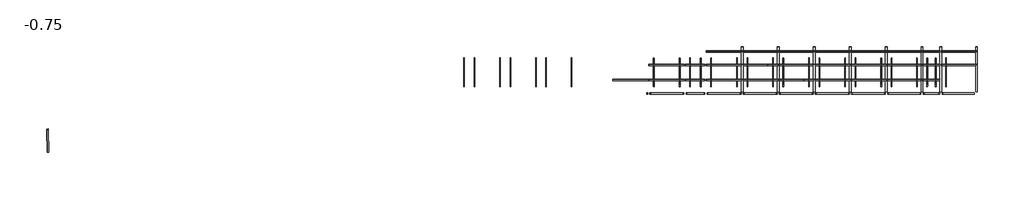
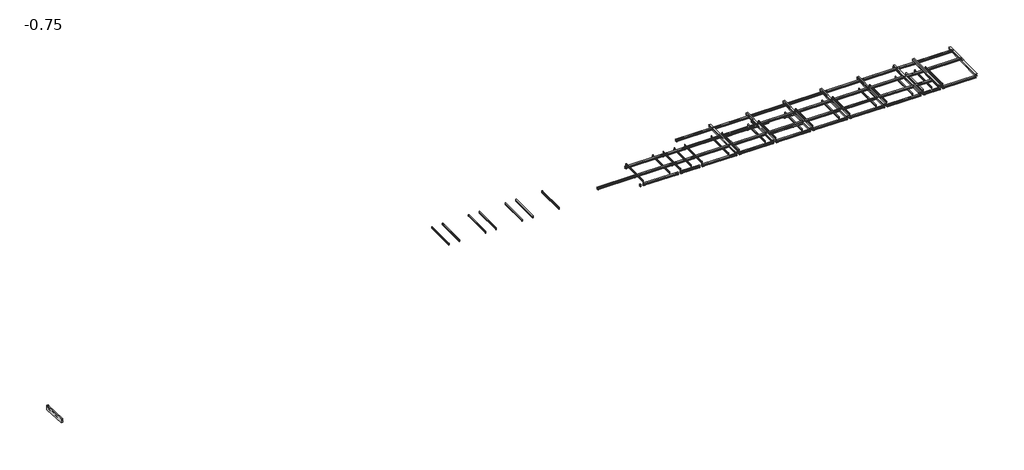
# One storey, incomplete: 69 beams, 37 proxies.
"""IFC4 building model written with IfcOpenShell, lengths in millimetres."""

from ifc_helpers import new_model, si_unit, origin, place, context, project, spatial, faceted_brep, transform, mapped, element, save
from components import hea220_1345f282, hea220_8597afc0, hea220_396262f0, hea220_e51bf654, hea220_084d61d4, hea220_609f1b24, hea220_834636a7, hea220_2531376c, hea220_0f68d9ae, hea220_cdfd850b, hea220_ffc9ca0b, hea220_42e4d512, hea220_70436586, hea220_5286604f, hea220_72724352, hea220_6158f9bf, hea220_02838a77, hea220_6ebdf5e4, hea260_317cb1e5, generic_models_d7890f8d, generic_models_06b08add, generic_models_3cfb63a7, generic_models_b1344a45, generic_models_d5077565, generic_models_0ae8aa6c, generic_models_80d8fc9b, proxy_074950_074950_5c7bac8d

model = new_model("IFC4")

# Units and contexts
model_context = context("Model", 3, world=origin())
ifc_project = project(units=[si_unit("LENGTHUNIT", "METRE", prefix="MILLI")], contexts=[model_context])

# Site, building, storey
site = spatial("IfcSite", under=ifc_project)
building = spatial("IfcBuilding", under=site)
storey = spatial("IfcBuildingStorey", under=building, Name="-0.75", Elevation=-786.4115128)

# Beams
placement = place(None, origin())
element("IfcBeam", 1, ObjectType="Calcestruzzo - Trave rettangolare : 200 x 620mm", at=placement, inside=storey, context=model_context, shape_type="Brep", body=[
    faceted_brep([(-40091.6675652, 19447.5183463, 0.0), (-39891.7648251, 19453.75489, 0.0), (-39891.7648251, 19453.75489, -620.0), (-40091.6675652, 19447.5183463, -620.0), (-39993.6384533, 16305.3471251, 0.0), (-39989.8963337, 16305.4638714, 0.0), (-40083.444489, 19304.0049737, 0.0), (-39888.2851813, 19342.2203035, 0.0), (-39888.2851813, 19342.2203035, -120.0), (-39793.7357131, 16311.5836688, -120.0), (-39793.7357131, 16311.5836688, -170.0), (-39887.2838684, 19310.1247712, -170.0), (-39887.2838684, 19310.1247712, -290.0), (-39841.1257436, 17830.5976331, -290.0), (-39836.760163, 17690.665715, -290.0), (-39793.7357131, 16311.5836688, -290.0), (-39793.7357131, 16311.5836688, -620.0), (-39836.760163, 17690.665715, -620.0), (-39841.1257436, 17830.5976331, -620.0), (-39993.6384533, 16305.3471251, -620.0), (-39989.8963337, 16305.4638714, -290.0), (-39989.8963337, 16305.4638714, -170.0), (-39989.8963337, 16305.4638714, -120.0), (-40083.444489, 19304.0049737, -120.0), (-40083.444489, 19304.0049737, -290.0), (-40083.444489, 19304.0049737, -170.0)], [[[0, 1, 2, 3]], [[1, 0, 4, 5, 6, 7]], [[2, 1, 7, 8, 9, 10, 11, 12, 13, 14, 15, 16, 17, 18]], [[3, 2, 18, 17, 16, 19]], [[0, 3, 19, 4]], [[4, 19, 16, 15, 20, 21, 10, 9, 22, 5]], [[8, 23, 22, 9]], [[23, 6, 5, 22]], [[6, 23, 8, 7]], [[12, 24, 20, 15, 14, 13]], [[21, 25, 11, 10]], [[24, 25, 21, 20]], [[25, 24, 12, 11]]]),
])
hea220_shape = hea220_1345f282(model_context)
element("IfcBeam", 2, ObjectType="HE-A : HEA220", at=placement, inside=storey, context=model_context, shape_type="MappedRepresentation", body=[
    mapped(hea220_shape, transform((43568.8583455, 26064.5267116, -622.4392547), x_axis=(-0.9999741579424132, -6.569127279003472e-05, 0.007188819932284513), y_axis=(-5.214987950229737e-05, -0.9998656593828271, -0.016390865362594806), z_axis=(0.007188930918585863, -0.01639081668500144, 0.9998398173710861))),
])
element("IfcBeam", 3, ObjectType="HE-A : HEA220", at=placement, inside=storey, context=model_context, shape_type="MappedRepresentation", body=[
    mapped(hea220_shape, transform((43568.6704031, 28094.2809266, -589.1599371), x_axis=(-0.999974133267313, 6.10557514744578e-05, 0.007192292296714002), y_axis=(-0.00017849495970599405, -0.9998666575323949, -0.01632897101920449), z_axis=(0.007190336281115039, -0.016329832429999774, 0.9998408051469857))),
])
element("IfcBeam", 4, ObjectType="HE-A : HEA220", at=placement, inside=storey, context=model_context, shape_type="MappedRepresentation", body=[
    mapped(hea220_shape, transform((51308.7653763, 26064.5263039, -680.1124346), x_axis=(-0.9999741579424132, -6.569127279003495e-05, 0.0071888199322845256), y_axis=(-5.2149879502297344e-05, -0.9998656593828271, -0.016390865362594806), z_axis=(0.007188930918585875, -0.01639081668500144, 0.9998398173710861))),
])
element("IfcBeam", 5, ObjectType="HE-A : HEA220", at=placement, inside=storey, context=model_context, shape_type="MappedRepresentation", body=[
    mapped(hea220_shape, transform((51308.5774339, 28094.2805189, -646.833117), x_axis=(-0.999974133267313, 6.10557514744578e-05, 0.007192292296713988), y_axis=(-0.00017849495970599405, -0.9998666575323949, -0.01632897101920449), z_axis=(0.007190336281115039, -0.016329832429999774, 0.9998408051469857))),
])
element("IfcBeam", 6, ObjectType="HE-A : HEA220", at=placement, inside=storey, context=model_context, shape_type="MappedRepresentation", body=[
    mapped(hea220_shape, transform((51308.5773852, 29902.4096235, -617.194963), x_axis=(-0.9999741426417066, 6.468302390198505e-05, 0.007190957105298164), y_axis=(-0.00018253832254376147, -0.9998656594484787, -0.016389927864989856), z_axis=(0.007188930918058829, -0.016390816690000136, 0.9998398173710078))),
])
element("IfcBeam", 7, ObjectType="HE-A : HEA220", at=placement, inside=storey, context=model_context, shape_type="MappedRepresentation", body=[
    mapped(hea220_shape, transform((56198.8546975, 26064.5260462, -716.555201), x_axis=(-0.9999741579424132, -6.569127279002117e-05, 0.007188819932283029), y_axis=(-5.214987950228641e-05, -0.9998656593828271, -0.01639086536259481), z_axis=(0.0071889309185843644, -0.016390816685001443, 0.9998398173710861))),
])
element("IfcBeam", 8, ObjectType="HE-A : HEA220", at=placement, inside=storey, context=model_context, shape_type="MappedRepresentation", body=[
    mapped(hea220_shape, transform((56198.6667551, 28094.2802613, -683.2758834), x_axis=(-0.999974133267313, 6.10557514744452e-05, 0.007192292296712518), y_axis=(-0.00017849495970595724, -0.9998666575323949, -0.016328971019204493), z_axis=(0.007190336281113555, -0.016329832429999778, 0.9998408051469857))),
])
element("IfcBeam", 9, ObjectType="HE-A : HEA220", at=placement, inside=storey, context=model_context, shape_type="MappedRepresentation", body=[
    mapped(hea220_shape, transform((56198.6667064, 29902.4093659, -653.6377294), x_axis=(-0.9999741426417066, 6.468302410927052e-05, 0.007190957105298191), y_axis=(-0.00018253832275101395, -0.9998656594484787, -0.01638992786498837), z_axis=(0.007188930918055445, -0.01639081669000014, 0.9998398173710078))),
])
element("IfcBeam", 10, ObjectType="HE-A : HEA220", at=placement, inside=storey, context=model_context, shape_type="MappedRepresentation", body=[
    mapped(hea220_shape, transform((61038.7574883, 26064.5257874, -753.1707152), x_axis=(-0.9999741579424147, -6.569127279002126e-05, 0.007188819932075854), y_axis=(-5.2149879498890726e-05, -0.9998656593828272, -0.016390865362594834), z_axis=(0.007188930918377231, -0.016390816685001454, 0.9998398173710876))),
])
element("IfcBeam", 11, ObjectType="HE-A : HEA220", at=placement, inside=storey, context=model_context, shape_type="MappedRepresentation", body=[
    mapped(hea220_shape, transform((61038.569546, 28094.2800025, -719.8913976), x_axis=(-0.999974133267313, 6.105575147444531e-05, 0.00719229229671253), y_axis=(-0.0001784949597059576, -0.9998666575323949, -0.0163289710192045), z_axis=(0.007190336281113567, -0.016329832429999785, 0.9998408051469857))),
])
element("IfcBeam", 12, ObjectType="HE-A : HEA220", at=placement, inside=storey, context=model_context, shape_type="MappedRepresentation", body=[
    mapped(hea220_shape, transform((61038.5694972, 29902.4091071, -690.2532435), x_axis=(-0.9999741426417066, 6.468302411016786e-05, 0.007190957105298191), y_axis=(-0.00018253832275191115, -0.9998656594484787, -0.01638992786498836), z_axis=(0.00718893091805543, -0.016390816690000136, 0.9998398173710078))),
])
element("IfcBeam", 13, ObjectType="HE-A : HEA220", at=placement, inside=storey, context=model_context, shape_type="MappedRepresentation", body=[
    mapped(hea220_shape, transform((70788.7574883, 26064.5252713, -826.1707152), x_axis=(-0.9999741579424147, -6.569127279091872e-05, 0.007188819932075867), y_axis=(-5.214987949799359e-05, -0.9998656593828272, -0.016390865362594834), z_axis=(0.007188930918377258, -0.016390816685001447, 0.9998398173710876))),
])
element("IfcBeam", 14, ObjectType="HE-A : HEA220", at=placement, inside=storey, context=model_context, shape_type="MappedRepresentation", body=[
    mapped(hea220_shape, transform((70788.569546, 28094.2794864, -792.8913976), x_axis=(-0.999974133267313, 6.10557514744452e-05, 0.007192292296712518), y_axis=(-0.00017849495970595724, -0.9998666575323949, -0.016328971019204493), z_axis=(0.007190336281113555, -0.016329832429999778, 0.9998408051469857))),
])
element("IfcBeam", 15, ObjectType="HE-A : HEA220", at=placement, inside=storey, context=model_context, shape_type="MappedRepresentation", body=[
    mapped(hea220_shape, transform((70788.5694972, 29902.408591, -763.2532435), x_axis=(-0.9999741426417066, 6.468302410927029e-05, 0.007190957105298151), y_axis=(-0.0001825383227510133, -0.9998656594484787, -0.01638992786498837), z_axis=(0.007188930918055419, -0.01639081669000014, 0.9998398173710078))),
])
element("IfcBeam", 16, ObjectType="HE-A : HEA220", at=placement, inside=storey, context=model_context, shape_type="MappedRepresentation", body=[
    mapped(hea220_shape, transform((75658.7574883, 26064.5250013, -864.3707152), x_axis=(-0.9999741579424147, -6.56912727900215e-05, 0.007188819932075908), y_axis=(-5.2149879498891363e-05, -0.9998656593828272, -0.016390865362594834), z_axis=(0.0071889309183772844, -0.016390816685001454, 0.9998398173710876))),
])
element("IfcBeam", 17, ObjectType="HE-A : HEA220", at=placement, inside=storey, context=model_context, shape_type="MappedRepresentation", body=[
    mapped(hea220_shape, transform((75658.569546, 28094.2792164, -831.0913976), x_axis=(-0.999974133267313, 6.105575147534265e-05, 0.00719229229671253), y_axis=(-0.0001784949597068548, -0.9998666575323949, -0.016328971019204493), z_axis=(0.007190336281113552, -0.016329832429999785, 0.9998408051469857))),
])
element("IfcBeam", 18, ObjectType="HE-A : HEA220", at=placement, inside=storey, context=model_context, shape_type="MappedRepresentation", body=[
    mapped(hea220_shape, transform((75658.5694972, 29902.408321, -801.4532435), x_axis=(-0.9999741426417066, 6.468302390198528e-05, 0.007190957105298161), y_axis=(-0.00018253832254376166, -0.9998656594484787, -0.016389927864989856), z_axis=(0.0071889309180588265, -0.016390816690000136, 0.9998398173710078))),
])
element("IfcBeam", 19, ObjectType="HE-A : HEA220", at=placement, inside=storey, context=model_context, shape_type="MappedRepresentation", body=[
    mapped(hea220_shape, transform((83008.569546, 28094.2788573, -881.8913976), x_axis=(-0.999974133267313, 6.105575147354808e-05, 0.0071922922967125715), y_axis=(-0.00017849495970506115, -0.9998666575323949, -0.0163289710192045), z_axis=(0.007190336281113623, -0.016329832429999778, 0.9998408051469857))),
])
element("IfcBeam", 20, ObjectType="HE-A : HEA220", at=placement, inside=storey, context=model_context, shape_type="MappedRepresentation", body=[
    mapped(hea220_shape, transform((83008.5694972, 29902.4079618, -852.2532435), x_axis=(-0.9999741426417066, 6.468302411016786e-05, 0.007190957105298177), y_axis=(-0.00018253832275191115, -0.9998656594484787, -0.01638992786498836), z_axis=(0.00718893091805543, -0.016390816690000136, 0.9998398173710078))),
])
element("IfcBeam", 21, ObjectType="HE-A : HEA220", at=placement, inside=storey, context=model_context, shape_type="MappedRepresentation", body=[
    mapped(hea220_shape, transform((38728.3461871, 26064.5269667, -586.3527962), x_axis=(-0.9999741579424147, -6.569127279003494e-05, 0.00718881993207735), y_axis=(-5.214987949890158e-05, -0.9998656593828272, -0.016390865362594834), z_axis=(0.007188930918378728, -0.016390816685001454, 0.9998398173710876))),
])
hea220_2_shape = hea220_8597afc0(model_context)
element("IfcBeam", 22, ObjectType="HE-A : HEA220", at=placement, inside=storey, context=model_context, shape_type="MappedRepresentation", body=[
    mapped(hea220_2_shape, transform((40936.5248932, 24216.5547742, -629.5678381), x_axis=(0.9999826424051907, -7.476964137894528e-05, -0.005891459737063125), y_axis=(7.476822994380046e-05, 0.9999999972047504, -4.598219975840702e-07), z_axis=(0.005891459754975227, 1.931999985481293e-08, 0.9999826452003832))),
])
element("IfcBeam", 23, ObjectType="HE-A : HEA220", at=placement, inside=storey, context=model_context, shape_type="MappedRepresentation", body=[
    mapped(hea220_2_shape, transform((45836.4405904, 24216.5545161, -666.0782942), x_axis=(0.9999826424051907, -7.476964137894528e-05, -0.005891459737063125), y_axis=(7.476822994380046e-05, 0.9999999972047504, -4.598219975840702e-07), z_axis=(0.005891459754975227, 1.931999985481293e-08, 0.9999826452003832))),
])
element("IfcBeam", 24, ObjectType="HE-A : HEA220", at=placement, inside=storey, context=model_context, shape_type="MappedRepresentation", body=[
    mapped(hea220_2_shape, transform((48676.431924, 24216.5543665, -687.241018), x_axis=(0.9999826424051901, -7.476964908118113e-05, -0.0058914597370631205), y_axis=(7.476823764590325e-05, 0.9999999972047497, -4.598220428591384e-07), z_axis=(0.00589145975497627, 1.9319999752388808e-08, 0.9999826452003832))),
])
element("IfcBeam", 25, ObjectType="HE-A : HEA220", at=placement, inside=storey, context=model_context, shape_type="MappedRepresentation", body=[
    mapped(hea220_2_shape, transform((53566.5212452, 24216.5541089, -723.6837844), x_axis=(0.9999826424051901, -7.476964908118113e-05, -0.0058914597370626), y_axis=(7.476823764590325e-05, 0.9999999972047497, -4.5982204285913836e-07), z_axis=(0.005891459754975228, 1.9319999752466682e-08, 0.9999826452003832))),
])
element("IfcBeam", 26, ObjectType="HE-A : HEA220", at=placement, inside=storey, context=model_context, shape_type="MappedRepresentation", body=[
    mapped(hea220_2_shape, transform((58406.4240361, 24216.5538501, -760.2992986), x_axis=(0.9999826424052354, -7.476964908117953e-05, -0.005891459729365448), y_axis=(7.476823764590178e-05, 0.9999999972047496, -4.5982204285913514e-07), z_axis=(0.005891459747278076, 1.9320000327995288e-08, 0.9999826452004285))),
])
element("IfcBeam", 27, ObjectType="HE-A : HEA220", at=placement, inside=storey, context=model_context, shape_type="MappedRepresentation", body=[
    mapped(hea220_2_shape, transform((63276.4408953, 24216.5535974, -796.0374127), x_axis=(0.9999826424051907, -7.476964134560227e-05, -0.005891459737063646), y_axis=(7.476822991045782e-05, 0.9999999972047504, -4.598219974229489e-07), z_axis=(0.00589145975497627, 1.9319999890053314e-08, 0.9999826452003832))),
])
element("IfcBeam", 28, ObjectType="HE-A : HEA220", at=placement, inside=storey, context=model_context, shape_type="MappedRepresentation", body=[
    mapped(hea220_2_shape, transform((68156.4240361, 24216.553334, -833.2992986), x_axis=(0.9999826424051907, -7.476964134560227e-05, -0.005891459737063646), y_axis=(7.476822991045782e-05, 0.9999999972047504, -4.598219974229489e-07), z_axis=(0.00589145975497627, 1.9319999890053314e-08, 0.9999826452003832))),
])
element("IfcBeam", 29, ObjectType="HE-A : HEA220", at=placement, inside=storey, context=model_context, shape_type="MappedRepresentation", body=[
    mapped(hea220_2_shape, transform((73026.4240361, 24216.553064, -871.4992986), x_axis=(0.9999826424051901, -7.476964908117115e-05, -0.005891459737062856), y_axis=(7.476823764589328e-05, 0.9999999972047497, -4.598220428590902e-07), z_axis=(0.005891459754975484, 1.9319999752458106e-08, 0.9999826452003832))),
])
element("IfcBeam", 30, ObjectType="HE-A : HEA220", at=placement, inside=storey, context=model_context, shape_type="MappedRepresentation", body=[
    mapped(hea220_2_shape, transform((77826.3259695, 24216.552831, -904.4561201), x_axis=(0.9999826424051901, -7.476964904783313e-05, -0.005891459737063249), y_axis=(7.476823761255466e-05, 0.9999999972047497, -4.5982204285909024e-07), z_axis=(0.005891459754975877, 1.9319999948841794e-08, 0.9999826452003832))),
])
element("IfcBeam", 31, ObjectType="HE-A : HEA220", at=placement, inside=storey, context=model_context, shape_type="MappedRepresentation", body=[
    mapped(hea220_2_shape, transform((80376.4240361, 24216.5527048, -922.2992986), x_axis=(0.9999826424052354, -7.476964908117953e-05, -0.005891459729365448), y_axis=(7.476823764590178e-05, 0.9999999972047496, -4.598220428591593e-07), z_axis=(0.005891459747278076, 1.932000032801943e-08, 0.9999826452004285))),
])
hea220_3_shape = hea220_396262f0(model_context)
element("IfcBeam", 32, ObjectType="HE-A : HEA220", at=placement, inside=storey, context=model_context, shape_type="MappedRepresentation", body=[
    mapped(hea220_3_shape, transform((41351.4606703, 24216.9047406, -633.0964964), x_axis=(0.9999815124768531, -7.694383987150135e-05, -0.006080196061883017), y_axis=(7.694238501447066e-05, 0.9999999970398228, -4.731925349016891e-07), z_axis=(0.006080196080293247, 5.359000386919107e-09, 0.9999815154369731))),
])
element("IfcBeam", 33, ObjectType="HE-A : HEA220", at=placement, inside=storey, context=model_context, shape_type="MappedRepresentation", body=[
    mapped(hea220_3_shape, transform((46251.3763676, 24216.9044824, -669.6069525), x_axis=(0.9999815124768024, -7.69438398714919e-05, -0.006080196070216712), y_axis=(7.69423850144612e-05, 0.999999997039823, -4.731925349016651e-07), z_axis=(0.006080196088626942, 5.3589997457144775e-09, 0.9999815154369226))),
])
element("IfcBeam", 34, ObjectType="HE-A : HEA220", at=placement, inside=storey, context=model_context, shape_type="MappedRepresentation", body=[
    mapped(hea220_3_shape, transform((49091.3677012, 24216.9043328, -690.7696763), x_axis=(0.9999815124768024, -7.694383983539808e-05, -0.006080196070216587), y_axis=(7.69423849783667e-05, 0.999999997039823, -4.7319253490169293e-07), z_axis=(0.006080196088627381, 5.358999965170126e-09, 0.9999815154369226))),
])
element("IfcBeam", 35, ObjectType="HE-A : HEA220", at=placement, inside=storey, context=model_context, shape_type="MappedRepresentation", body=[
    mapped(hea220_3_shape, transform((53981.4570224, 24216.9040752, -727.2124427), x_axis=(0.9999815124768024, -7.694383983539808e-05, -0.006080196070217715), y_axis=(7.69423849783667e-05, 0.999999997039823, -4.7319253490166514e-07), z_axis=(0.0060801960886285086, 5.358999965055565e-09, 0.9999815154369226))),
])
element("IfcBeam", 36, ObjectType="HE-A : HEA220", at=placement, inside=storey, context=model_context, shape_type="MappedRepresentation", body=[
    mapped(hea220_3_shape, transform((58821.3598132, 24216.9038164, -763.8279569), x_axis=(0.9999815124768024, -7.694383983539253e-05, -0.006080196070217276), y_axis=(7.694238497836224e-05, 0.999999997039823, -4.731925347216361e-07), z_axis=(0.00608019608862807, 5.358999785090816e-09, 0.9999815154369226))),
])
element("IfcBeam", 37, ObjectType="HE-A : HEA220", at=placement, inside=storey, context=model_context, shape_type="MappedRepresentation", body=[
    mapped(hea220_3_shape, transform((63691.3766724, 24216.9035637, -799.566071), x_axis=(0.9999815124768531, -7.694383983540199e-05, -0.0060801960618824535), y_axis=(7.694238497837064e-05, 0.9999999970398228, -4.7319253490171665e-07), z_axis=(0.006080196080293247, 5.359000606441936e-09, 0.9999815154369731))),
])
element("IfcBeam", 38, ObjectType="HE-A : HEA220", at=placement, inside=storey, context=model_context, shape_type="MappedRepresentation", body=[
    mapped(hea220_3_shape, transform((68571.3598132, 24216.9033003, -836.8279569), x_axis=(0.9999815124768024, -7.69438398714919e-05, -0.006080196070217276), y_axis=(7.69423850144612e-05, 0.999999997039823, -4.731925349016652e-07), z_axis=(0.00608019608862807, 5.358999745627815e-09, 0.9999815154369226))),
])
element("IfcBeam", 39, ObjectType="HE-A : HEA220", at=placement, inside=storey, context=model_context, shape_type="MappedRepresentation", body=[
    mapped(hea220_3_shape, transform((73441.3598132, 24216.9030303, -875.0279569), x_axis=(0.9999815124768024, -7.694383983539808e-05, -0.006080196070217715), y_axis=(7.69423849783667e-05, 0.999999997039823, -4.7319253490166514e-07), z_axis=(0.0060801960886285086, 5.358999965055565e-09, 0.9999815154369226))),
])
element("IfcBeam", 40, ObjectType="HE-A : HEA220", at=placement, inside=storey, context=model_context, shape_type="MappedRepresentation", body=[
    mapped(hea220_3_shape, transform((78241.2617467, 24216.9027973, -907.9847783), x_axis=(0.9999815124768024, -7.694383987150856e-05, -0.0060801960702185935), y_axis=(7.694238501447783e-05, 0.9999999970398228, -4.7319253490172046e-07), z_axis=(0.0060801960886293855, 5.3589997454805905e-09, 0.9999815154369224))),
])
element("IfcBeam", 41, ObjectType="HE-A : HEA220", at=placement, inside=storey, context=model_context, shape_type="MappedRepresentation", body=[
    mapped(hea220_3_shape, transform((80791.3598132, 24216.9026712, -925.8279569), x_axis=(0.9999815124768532, -7.694383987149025e-05, -0.006080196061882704), y_axis=(7.694238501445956e-05, 0.9999999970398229, -4.731925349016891e-07), z_axis=(0.006080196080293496, 5.3590003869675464e-09, 0.9999815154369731))),
])
hea220_4_shape = hea220_e51bf654(model_context)
element("IfcBeam", 42, ObjectType="HE-A : HEA220", at=placement, inside=storey, context=model_context, shape_type="MappedRepresentation", body=[
    mapped(hea220_4_shape, transform((43586.676258, 24216.7235718, -649.5824075), x_axis=(0.9999728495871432, -7.691378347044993e-05, -0.0073684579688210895), y_axis=(7.691164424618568e-05, 0.9999999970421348, -5.736857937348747e-07), z_axis=(0.007368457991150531, 6.9499999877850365e-09, 0.9999728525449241))),
])
hea220_5_shape = hea220_084d61d4(model_context)
element("IfcBeam", 43, ObjectType="HE-A : HEA220", at=placement, inside=storey, context=model_context, shape_type="MappedRepresentation", body=[
    mapped(hea220_5_shape, transform((70796.7896541, 24216.7228843, -853.2417601), x_axis=(0.9999728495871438, -7.691378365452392e-05, -0.007368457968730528), y_axis=(7.691164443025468e-05, 0.9999999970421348, -5.736857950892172e-07), z_axis=(0.00736845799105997, 6.949999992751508e-09, 0.9999728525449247))),
])
element("IfcBeam", 44, ObjectType="HE-A : HEA220", at=placement, inside=storey, context=model_context, shape_type="MappedRepresentation", body=[
    mapped(hea220_5_shape, transform((61046.7896541, 24216.7234003, -780.2417601), x_axis=(0.9999728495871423, -7.691378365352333e-05, -0.007368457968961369), y_axis=(7.691164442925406e-05, 0.999999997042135, -5.736857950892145e-07), z_axis=(0.00736845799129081, 6.949999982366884e-09, 0.9999728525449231))),
])
hea220_6_shape = hea220_609f1b24(model_context)
element("IfcBeam", 45, ObjectType="HE-A : HEA220", at=placement, inside=storey, context=model_context, shape_type="MappedRepresentation", body=[
    mapped(hea220_6_shape, transform((82981.7375241, 24216.7249512, -941.983473), x_axis=(0.9999728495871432, -7.691378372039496e-05, -0.007368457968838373), y_axis=(7.691164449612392e-05, 0.9999999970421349, -5.736857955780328e-07), z_axis=(0.007368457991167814, 6.949999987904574e-09, 0.999972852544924))),
])
element("IfcBeam", 46, ObjectType="HE-A : HEA220", at=placement, inside=storey, context=model_context, shape_type="MappedRepresentation", body=[
    mapped(hea220_6_shape, transform((75631.7375241, 24216.7253103, -891.183473), x_axis=(0.9999728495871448, -7.691378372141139e-05, -0.007368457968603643), y_axis=(7.691164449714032e-05, 0.9999999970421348, -5.736857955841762e-07), z_axis=(0.007368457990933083, 6.950000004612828e-09, 0.9999728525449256))),
])
hea220_7_shape = hea220_834636a7(model_context)
element("IfcBeam", 47, ObjectType="HE-A : HEA220", at=placement, inside=storey, context=model_context, shape_type="MappedRepresentation", body=[
    mapped(hea220_7_shape, transform((47402.4693417, 28093.9082372, -618.0075744), x_axis=(-0.9999741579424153, -6.569127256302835e-05, 0.007188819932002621), y_axis=(-5.214987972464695e-05, -0.9998656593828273, -0.016390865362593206), z_axis=(0.007188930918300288, -0.016390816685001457, 0.9998398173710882))),
])
element("IfcBeam", 48, ObjectType="HE-A : HEA220", at=placement, inside=storey, context=model_context, shape_type="MappedRepresentation", body=[
    mapped(hea220_7_shape, transform((47402.4693417, 26064.4564047, -651.2840402), x_axis=(-0.9999741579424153, -6.569127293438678e-05, 0.007188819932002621), y_axis=(-5.214987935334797e-05, -0.9998656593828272, -0.016390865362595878), z_axis=(0.007188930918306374, -0.016390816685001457, 0.9998398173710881))),
])
hea220_8_shape = hea220_2531376c(model_context)
element("IfcBeam", 49, ObjectType="HE-A : HEA220", at=placement, inside=storey, context=model_context, shape_type="MappedRepresentation", body=[
    mapped(hea220_8_shape, transform((47402.2246654, 28093.9082212, -618.0058154), x_axis=(-0.9999741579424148, -6.569127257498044e-05, 0.00718881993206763), y_axis=(-5.2149879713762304e-05, -0.9998656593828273, -0.016390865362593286), z_axis=(0.007188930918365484, -0.016390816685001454, 0.9998398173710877))),
])
element("IfcBeam", 50, ObjectType="HE-A : HEA220", at=placement, inside=storey, context=model_context, shape_type="MappedRepresentation", body=[
    mapped(hea220_8_shape, transform((47402.2246654, 26064.4563887, -651.2822812), x_axis=(-0.9999741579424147, -6.569127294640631e-05, 0.007188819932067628), y_axis=(-5.214987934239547e-05, -0.9998656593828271, -0.016390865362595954), z_axis=(0.007188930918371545, -0.01639081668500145, 0.9998398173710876))),
])
hea220_9_shape = hea220_0f68d9ae(model_context)
element("IfcBeam", 51, ObjectType="HE-A : HEA220", at=placement, inside=storey, context=model_context, shape_type="MappedRepresentation", body=[
    mapped(hea220_9_shape, transform((65947.1867963, 26064.5255355, -788.9089137), x_axis=(-0.9999749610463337, -6.466247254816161e-05, 0.007076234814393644), y_axis=(-5.133315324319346e-05, -0.9998656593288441, -0.016390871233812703), z_axis=(0.0070763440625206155, -0.01639082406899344, 0.9998406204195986))),
])
hea220_10_shape = hea220_cdfd850b(model_context)
element("IfcBeam", 52, ObjectType="HE-A : HEA220", at=placement, inside=storey, context=model_context, shape_type="MappedRepresentation", body=[
    mapped(hea220_10_shape, transform((65918.5895204, 28094.2797496, -755.6295341), x_axis=(-0.9999743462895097, 6.0803826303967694e-05, 0.007162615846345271), y_axis=(-0.0001777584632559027, -0.9998666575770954, -0.016328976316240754), z_axis=(0.007160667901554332, -0.016329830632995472, 0.9998410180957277))),
])
element("IfcBeam", 53, ObjectType="HE-A : HEA220", at=placement, inside=storey, context=model_context, shape_type="MappedRepresentation", body=[
    mapped(hea220_10_shape, transform((65918.589471, 29902.4088542, -725.99138), x_axis=(-0.9999743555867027, 6.441613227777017e-05, 0.007161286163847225), y_axis=(-0.00018178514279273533, -0.999865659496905, -0.01638993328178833), z_axis=(0.00715926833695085, -0.016390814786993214, 0.9998400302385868))),
])
hea220_11_shape = hea220_ffc9ca0b(model_context)
element("IfcBeam", 54, ObjectType="HE-A : HEA220", at=placement, inside=storey, context=model_context, shape_type="MappedRepresentation", body=[
    mapped(hea220_11_shape, transform((47461.5161106, 24216.8021583, -678.5394302), x_axis=(0.9999728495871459, -7.69137836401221e-05, -0.007368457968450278), y_axis=(7.691164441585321e-05, 0.9999999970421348, -5.736857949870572e-07), z_axis=(0.007368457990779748, 6.950000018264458e-09, 0.9999728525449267))),
])
hea220_12_shape = hea220_42e4d512(model_context)
element("IfcBeam", 55, ObjectType="HE-A : HEA220", at=placement, inside=storey, context=model_context, shape_type="MappedRepresentation", body=[
    mapped(hea220_12_shape, transform((51326.8352394, 24216.7231448, -707.2574439), x_axis=(0.9999728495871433, -7.691378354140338e-05, -0.00736845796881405), y_axis=(7.69116443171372e-05, 0.9999999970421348, -5.736857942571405e-07), z_axis=(0.00736845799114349, 6.949999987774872e-09, 0.9999728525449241))),
])
hea220_13_shape = hea220_70436586(model_context)
element("IfcBeam", 56, ObjectType="HE-A : HEA220", at=placement, inside=storey, context=model_context, shape_type="MappedRepresentation", body=[
    mapped(hea220_13_shape, transform((56191.5163887, 24216.7248414, -743.5129862), x_axis=(0.999972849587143, -7.691378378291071e-05, -0.007368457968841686), y_axis=(7.691164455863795e-05, 0.9999999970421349, -5.736857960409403e-07), z_axis=(0.007368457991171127, 6.949999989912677e-09, 0.999972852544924))),
])
hea220_14_shape = hea220_5286604f(model_context)
element("IfcBeam", 57, ObjectType="HE-A : HEA220", at=placement, inside=storey, context=model_context, shape_type="MappedRepresentation", body=[
    mapped(hea220_14_shape, transform((65921.7975889, 24216.7227638, -816.0166518), x_axis=(0.9999728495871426, -7.691378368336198e-05, -0.007368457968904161), y_axis=(7.691164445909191e-05, 0.9999999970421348, -5.736857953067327e-07), z_axis=(0.007368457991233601, 6.949999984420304e-09, 0.9999728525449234))),
])
hea220_15_shape = hea220_72724352(model_context)
element("IfcBeam", 58, ObjectType="HE-A : HEA220", at=placement, inside=storey, context=model_context, shape_type="MappedRepresentation", body=[
    mapped(hea220_15_shape, transform((79306.4509405, 24216.8116222, -915.8491651), x_axis=(0.9999728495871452, -7.691378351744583e-05, -0.007368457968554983), y_axis=(7.691164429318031e-05, 0.9999999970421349, -5.736857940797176e-07), z_axis=(0.007368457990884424, 6.9500000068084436e-09, 0.9999728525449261))),
])
hea220_16_shape = hea220_6158f9bf(model_context)
element("IfcBeam", 59, ObjectType="HE-A : HEA220", at=placement, inside=storey, context=model_context, shape_type="MappedRepresentation", body=[
    mapped(hea220_16_shape, transform((79246.9340277, 26064.4451665, -888.6164359), x_axis=(-0.9999741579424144, -6.569127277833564e-05, 0.0071888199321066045), y_axis=(-5.21498795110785e-05, -0.9998656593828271, -0.016390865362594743), z_axis=(0.007188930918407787, -0.016390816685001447, 0.9998398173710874))),
])
hea220_17_shape = hea220_02838a77(model_context)
element("IfcBeam", 60, ObjectType="HE-A : HEA220", at=placement, inside=storey, context=model_context, shape_type="MappedRepresentation", body=[
    mapped(hea220_17_shape, transform((79246.986977, 28093.8970024, -855.3403507), x_axis=(-0.9999741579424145, -6.569127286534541e-05, 0.00718881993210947), y_axis=(-5.2149879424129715e-05, -0.9998656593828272, -0.016390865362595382), z_axis=(0.007188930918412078, -0.01639081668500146, 0.9998398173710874))),
])
hea220_18_shape = hea220_6ebdf5e4(model_context)
element("IfcBeam", 61, ObjectType="HE-A : HEA220", at=placement, inside=storey, context=model_context, shape_type="MappedRepresentation", body=[
    mapped(hea220_18_shape, transform((79247.0341058, 29902.0241553, -825.7060245), x_axis=(-0.999974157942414, -6.569127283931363e-05, 0.007188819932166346), y_axis=(-5.214987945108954e-05, -0.9998656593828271, -0.01639086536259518), z_axis=(0.00718893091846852, -0.01639081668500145, 0.999839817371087))),
])
hea260_shape = hea260_317cb1e5(model_context)
element("IfcBeam", 62, ObjectType="HE-A : HEA260", at=placement, inside=storey, context=model_context, shape_type="MappedRepresentation", body=[
    mapped(hea260_shape, transform((53772.353732, 27524.0429797, -693.8991531), x_axis=(0.0, -0.9998656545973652, -0.01639124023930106), y_axis=(1.0, 0.0, 0.0), z_axis=(0.0, -0.01639124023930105, 0.9998656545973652))),
])
element("IfcBeam", 63, ObjectType="HE-A : HEA260", at=placement, inside=storey, context=model_context, shape_type="MappedRepresentation", body=[
    mapped(hea260_shape, transform((58612.2565229, 27524.0427209, -730.5146673), x_axis=(0.0, -0.9998656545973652, -0.01639124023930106), y_axis=(1.0, 0.0, 0.0), z_axis=(0.0, -0.01639124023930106, 0.9998656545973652))),
])
element("IfcBeam", 64, ObjectType="HE-A : HEA260", at=placement, inside=storey, context=model_context, shape_type="MappedRepresentation", body=[
    mapped(hea260_shape, transform((63482.2733821, 27524.0424682, -766.2527814), x_axis=(0.0, -0.9998656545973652, -0.016391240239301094), y_axis=(1.0, 0.0, 0.0), z_axis=(0.0, -0.016391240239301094, 0.9998656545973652))),
])
element("IfcBeam", 65, ObjectType="HE-A : HEA260", at=placement, inside=storey, context=model_context, shape_type="MappedRepresentation", body=[
    mapped(hea260_shape, transform((68362.2565229, 27524.0422048, -803.5146673), x_axis=(0.0, -0.9998656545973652, -0.01639124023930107), y_axis=(1.0, 0.0, 0.0), z_axis=(0.0, -0.01639124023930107, 0.9998656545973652))),
])
element("IfcBeam", 66, ObjectType="HE-A : HEA260", at=placement, inside=storey, context=model_context, shape_type="MappedRepresentation", body=[
    mapped(hea260_shape, transform((73232.2565229, 27524.0419348, -841.7146673), x_axis=(0.0, -0.9998656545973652, -0.01639124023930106), y_axis=(1.0, 0.0, 0.0), z_axis=(0.0, -0.01639124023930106, 0.9998656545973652))),
])
element("IfcBeam", 67, ObjectType="HE-A : HEA260", at=placement, inside=storey, context=model_context, shape_type="MappedRepresentation", body=[
    mapped(hea260_shape, transform((78032.1584563, 27524.0417018, -874.6714888), x_axis=(0.0, -0.9998656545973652, -0.01639124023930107), y_axis=(1.0, 0.0, 0.0), z_axis=(0.0, -0.01639124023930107, 0.9998656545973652))),
])
element("IfcBeam", 68, ObjectType="HE-A : HEA260", at=placement, inside=storey, context=model_context, shape_type="MappedRepresentation", body=[
    mapped(hea260_shape, transform((80582.2565229, 27524.0415756, -892.5146673), x_axis=(0.0, -0.9998656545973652, -0.01639124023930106), y_axis=(1.0, 0.0, 0.0), z_axis=(0.0, -0.01639124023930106, 0.9998656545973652))),
])
element("IfcBeam", 69, ObjectType="HE-A : HEA260", at=placement, inside=storey, context=model_context, shape_type="MappedRepresentation", body=[
    mapped(hea260_shape, transform((85382.2565229, 27524.0413211, -928.5146673), x_axis=(0.0, -0.9998656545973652, -0.016391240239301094), y_axis=(1.0, 0.0, 0.0), z_axis=(0.0, -0.016391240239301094, 0.9998656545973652))),
])

# Proxies
generic_models_shape = generic_models_d7890f8d(model_context)
element("IfcBuildingElementProxy", 70, Name="sikawrapElvis : sikawrapElvis", ObjectType="sikawrapElvis : sikawrapElvis", at=placement, inside=storey, context=model_context, shape_type="MappedRepresentation", body=[
    mapped(generic_models_shape, transform((58612.3573777, 29373.3056975, -1124.5205223), x_axis=(1.0, 0.0, 0.0), y_axis=(0.0, 1.0, 0.0), z_axis=(0.0, 0.0, 1.0))),
])
generic_models_2_shape = generic_models_06b08add(model_context)
element("IfcBuildingElementProxy", 71, Name="sikawrapElvis : sikawrapElvis2", ObjectType="sikawrapElvis : sikawrapElvis2", at=placement, inside=storey, context=model_context, shape_type="MappedRepresentation", body=[
    mapped(generic_models_2_shape, transform((58612.3573777, 29373.3056975, -1125.3205223), x_axis=(1.0, 0.0, 0.0), y_axis=(0.0, 1.0, 0.0), z_axis=(0.0, 0.0, 1.0))),
])
generic_models_3_shape = generic_models_3cfb63a7(model_context)
element("IfcBuildingElementProxy", 72, Name="Sika® CarboDur® M914 : Sika® CarboDur® S1012", ObjectType="Sika® CarboDur® M914 : Sika® CarboDur® S1012", at=placement, inside=storey, context=model_context, shape_type="MappedRepresentation", body=[
    mapped(generic_models_3_shape, transform((61028.7325973, 25988.3920265, -920.9316727), x_axis=(0.9999772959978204, 0.0, -0.0067385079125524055), y_axis=(0.0067385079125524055, 0.0, 0.9999772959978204), z_axis=(0.0, -1.0, 0.0))),
])
generic_models_4_shape = generic_models_b1344a45(model_context)
element("IfcBuildingElementProxy", 73, Name="Sika® CarboDur® M914 : Sika® CarboDur® S1012", ObjectType="Sika® CarboDur® M914 : Sika® CarboDur® S1012", at=placement, inside=storey, context=model_context, shape_type="MappedRepresentation", body=[
    mapped(generic_models_4_shape, transform((61028.7325973, 26138.3920265, -920.9316727), x_axis=(0.9999772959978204, 0.0, -0.006738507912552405), y_axis=(-0.006738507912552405, 0.0, -0.9999772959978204), z_axis=(0.0, 1.0, 0.0))),
])
generic_models_5_shape = generic_models_d5077565(model_context)
element("IfcBuildingElementProxy", 74, Name="Sika® CarboDur® M914 : Sika® CarboDur® S1012", ObjectType="Sika® CarboDur® M914 : Sika® CarboDur® S1012", at=placement, inside=storey, context=model_context, shape_type="MappedRepresentation", body=[
    mapped(generic_models_5_shape, transform((56345.8352394, 28003.3920265, -886.5494463), x_axis=(0.9999756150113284, 0.0, -0.006983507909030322), y_axis=(0.006983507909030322, 0.0, 0.9999756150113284), z_axis=(0.0, -1.0, 0.0))),
])
generic_models_6_shape = generic_models_0ae8aa6c(model_context)
element("IfcBuildingElementProxy", 75, Name="Sika® CarboDur® M914 : Sika® CarboDur® S1012", ObjectType="Sika® CarboDur® M914 : Sika® CarboDur® S1012", at=placement, inside=storey, context=model_context, shape_type="MappedRepresentation", body=[
    mapped(generic_models_6_shape, transform((56185.541638, 28168.3920265, -885.9514247), x_axis=(0.9999772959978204, 0.0, -0.006738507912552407), y_axis=(-0.006738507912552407, 0.0, -0.9999772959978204), z_axis=(0.0, 1.0, 0.0))),
])
generic_models_7_shape = generic_models_80d8fc9b(model_context)
element("IfcBuildingElementProxy", 76, Name="sikawrapElvis_inclinata : sikawrapElvis_inclinata", ObjectType="sikawrapElvis_inclinata : sikawrapElvis_inclinata", at=placement, inside=storey, context=model_context, shape_type="MappedRepresentation", body=[
    mapped(generic_models_7_shape, transform((62042.372441, 26063.4418563, -1008.4427024), x_axis=(0.0, -1.0, 0.0), y_axis=(0.9999772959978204, 0.0, -0.0067385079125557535), z_axis=(0.0067385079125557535, 0.0, 0.9999772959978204))),
])
element("IfcBuildingElementProxy", 77, Name="sikawrapElvis_inclinata : sikawrapElvis_inclinata", ObjectType="sikawrapElvis_inclinata : sikawrapElvis_inclinata", at=placement, inside=storey, context=model_context, shape_type="MappedRepresentation", body=[
    mapped(generic_models_7_shape, transform((57196.8300967, 28093.3920265, -974.9205747), x_axis=(0.0, -1.0, 0.0), y_axis=(0.9999772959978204, 0.0, -0.0067385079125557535), z_axis=(0.0067385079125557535, 0.0, 0.9999772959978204))),
])
element("IfcBuildingElementProxy", 78, Name="sikawrapElvis_inclinata : sikawrapElvis_inclinata", ObjectType="sikawrapElvis_inclinata : sikawrapElvis_inclinata", at=placement, inside=storey, context=model_context, shape_type="MappedRepresentation", body=[
    mapped(generic_models_7_shape, transform((58726.8164614, 28093.4418563, -986.1002949), x_axis=(0.0, -1.0, 0.0), y_axis=(0.9999772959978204, 0.0, -0.0067385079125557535), z_axis=(0.0067385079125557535, 0.0, 0.9999772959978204))),
])
element("IfcBuildingElementProxy", 79, Name="sikawrapElvis_inclinata : sikawrapElvis_inclinata", ObjectType="sikawrapElvis_inclinata : sikawrapElvis_inclinata", at=placement, inside=storey, context=model_context, shape_type="MappedRepresentation", body=[
    mapped(generic_models_7_shape, transform((53872.3429093, 28093.3920265, -952.5179828), x_axis=(0.0, -1.0, 0.0), y_axis=(0.9999772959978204, 0.0, -0.0067385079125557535), z_axis=(0.0067385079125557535, 0.0, 0.9999772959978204))),
])
element("IfcBuildingElementProxy", 80, Name="sikawrapElvis_inclinata : sikawrapElvis_inclinata", ObjectType="sikawrapElvis_inclinata : sikawrapElvis_inclinata", at=placement, inside=storey, context=model_context, shape_type="MappedRepresentation", body=[
    mapped(generic_models_7_shape, transform((62080.1631853, 28093.4418563, -1008.6973614), x_axis=(0.0, -1.0, 0.0), y_axis=(0.9999772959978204, 0.0, -0.0067385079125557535), z_axis=(0.0067385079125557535, 0.0, 0.9999772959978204))),
])
proxy_074950_074950_shape = proxy_074950_074950_5c7bac8d(model_context)
element("IfcBuildingElementProxy", 81, Name="074950 : 074950", ObjectType="074950 : 074950", at=placement, inside=storey, context=model_context, shape_type="MappedRepresentation", body=[
    mapped(proxy_074950_074950_shape, transform((21083.3673607, 29054.1202244, -700.198295), x_axis=(0.0, -1.0, 0.0), y_axis=(-0.999973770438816, 0.0, 0.007242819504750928), z_axis=(-0.007242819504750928, 0.0, -0.999973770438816))),
])
element("IfcBuildingElementProxy", 82, Name="074950 : 074950", ObjectType="074950 : 074950", at=placement, inside=storey, context=model_context, shape_type="MappedRepresentation", body=[
    mapped(proxy_074950_074950_shape, transform((22483.2939189, 29054.1202244, -710.3379764), x_axis=(0.0, -1.0, 0.0), y_axis=(-0.999973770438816, 0.0, 0.007242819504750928), z_axis=(-0.007242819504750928, 0.0, -0.999973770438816))),
])
element("IfcBuildingElementProxy", 83, Name="074950 : 074950", ObjectType="074950 : 074950", at=placement, inside=storey, context=model_context, shape_type="MappedRepresentation", body=[
    mapped(proxy_074950_074950_shape, transform((25923.2939189, 29054.1202244, -735.253929), x_axis=(0.0, -1.0, 0.0), y_axis=(-0.999973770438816, 0.0, 0.007242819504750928), z_axis=(-0.007242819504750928, 0.0, -0.999973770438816))),
])
element("IfcBuildingElementProxy", 84, Name="074950 : 074950", ObjectType="074950 : 074950", at=placement, inside=storey, context=model_context, shape_type="MappedRepresentation", body=[
    mapped(proxy_074950_074950_shape, transform((27323.2939189, 29054.1202244, -745.3941423), x_axis=(0.0, -1.0, 0.0), y_axis=(-0.999973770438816, 0.0, 0.007242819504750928), z_axis=(-0.007242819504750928, 0.0, -0.999973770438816))),
])
element("IfcBuildingElementProxy", 85, Name="074950 : 074950", ObjectType="074950 : 074950", at=placement, inside=storey, context=model_context, shape_type="MappedRepresentation", body=[
    mapped(proxy_074950_074950_shape, transform((30763.2939189, 29054.1202244, -770.3100949), x_axis=(0.0, -1.0, 0.0), y_axis=(-0.999973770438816, 0.0, 0.007242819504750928), z_axis=(-0.007242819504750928, 0.0, -0.999973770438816))),
])
element("IfcBuildingElementProxy", 86, Name="074950 : 074950", ObjectType="074950 : 074950", at=placement, inside=storey, context=model_context, shape_type="MappedRepresentation", body=[
    mapped(proxy_074950_074950_shape, transform((41843.2939189, 29054.1202244, -850.56264), x_axis=(0.0, -1.0, 0.0), y_axis=(-0.999973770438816, 0.0, 0.007242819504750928), z_axis=(-0.007242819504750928, 0.0, -0.999973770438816))),
])
element("IfcBuildingElementProxy", 87, Name="074950 : 074950", ObjectType="074950 : 074950", at=placement, inside=storey, context=model_context, shape_type="MappedRepresentation", body=[
    mapped(proxy_074950_074950_shape, transform((45343.2939189, 29054.1202244, -875.9131732), x_axis=(0.0, -1.0, 0.0), y_axis=(-0.999973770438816, 0.0, 0.007242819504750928), z_axis=(-0.007242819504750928, 0.0, -0.999973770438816))),
])
element("IfcBuildingElementProxy", 88, Name="074950 : 074950", ObjectType="074950 : 074950", at=placement, inside=storey, context=model_context, shape_type="MappedRepresentation", body=[
    mapped(proxy_074950_074950_shape, transform((46743.2939189, 29054.1202244, -886.0533865), x_axis=(0.0, -1.0, 0.0), y_axis=(-0.999973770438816, 0.0, 0.007242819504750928), z_axis=(-0.007242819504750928, 0.0, -0.999973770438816))),
])
element("IfcBuildingElementProxy", 89, Name="074950 : 074950", ObjectType="074950 : 074950", at=placement, inside=storey, context=model_context, shape_type="MappedRepresentation", body=[
    mapped(proxy_074950_074950_shape, transform((48183.2939189, 29054.1202244, -896.4833202), x_axis=(0.0, -1.0, 0.0), y_axis=(-0.999973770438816, 0.0, 0.007242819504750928), z_axis=(-0.007242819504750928, 0.0, -0.999973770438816))),
])
element("IfcBuildingElementProxy", 90, Name="074950 : 074950", ObjectType="074950 : 074950", at=placement, inside=storey, context=model_context, shape_type="MappedRepresentation", body=[
    mapped(proxy_074950_074950_shape, transform((49583.2939189, 29054.1202244, -906.6235334), x_axis=(0.0, -1.0, 0.0), y_axis=(-0.999973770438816, 0.0, 0.007242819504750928), z_axis=(-0.007242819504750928, 0.0, -0.999973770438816))),
])
element("IfcBuildingElementProxy", 91, Name="074950 : 074950", ObjectType="074950 : 074950", at=placement, inside=storey, context=model_context, shape_type="MappedRepresentation", body=[
    mapped(proxy_074950_074950_shape, transform((53073.2939189, 29054.1202244, -931.9016366), x_axis=(0.0, -1.0, 0.0), y_axis=(-0.999973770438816, 0.0, 0.007242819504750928), z_axis=(-0.007242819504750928, 0.0, -0.999973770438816))),
])
element("IfcBuildingElementProxy", 92, Name="074950 : 074950", ObjectType="074950 : 074950", at=placement, inside=storey, context=model_context, shape_type="MappedRepresentation", body=[
    mapped(proxy_074950_074950_shape, transform((54473.2939189, 29054.1202244, -942.0418498), x_axis=(0.0, -1.0, 0.0), y_axis=(-0.999973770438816, 0.0, 0.007242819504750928), z_axis=(-0.007242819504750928, 0.0, -0.999973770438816))),
])
element("IfcBuildingElementProxy", 93, Name="074950 : 074950", ObjectType="074950 : 074950", at=placement, inside=storey, context=model_context, shape_type="MappedRepresentation", body=[
    mapped(proxy_074950_074950_shape, transform((57913.2939189, 29054.1202244, -966.9578025), x_axis=(0.0, -1.0, 0.0), y_axis=(-0.999973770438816, 0.0, 0.007242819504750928), z_axis=(-0.007242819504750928, 0.0, -0.999973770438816))),
])
element("IfcBuildingElementProxy", 94, Name="074950 : 074950", ObjectType="074950 : 074950", at=placement, inside=storey, context=model_context, shape_type="MappedRepresentation", body=[
    mapped(proxy_074950_074950_shape, transform((59313.2939189, 29054.1202244, -977.0980157), x_axis=(0.0, -1.0, 0.0), y_axis=(-0.999973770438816, 0.0, 0.007242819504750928), z_axis=(-0.007242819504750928, 0.0, -0.999973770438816))),
])
element("IfcBuildingElementProxy", 95, Name="074950 : 074950", ObjectType="074950 : 074950", at=placement, inside=storey, context=model_context, shape_type="MappedRepresentation", body=[
    mapped(proxy_074950_074950_shape, transform((62783.2939189, 29054.1202244, -1002.2312587), x_axis=(0.0, -1.0, 0.0), y_axis=(-0.999973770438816, 0.0, 0.007242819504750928), z_axis=(-0.007242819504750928, 0.0, -0.999973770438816))),
])
element("IfcBuildingElementProxy", 96, Name="074950 : 074950", ObjectType="074950 : 074950", at=placement, inside=storey, context=model_context, shape_type="MappedRepresentation", body=[
    mapped(proxy_074950_074950_shape, transform((64183.2939189, 29054.1202244, -1012.3714719), x_axis=(0.0, -1.0, 0.0), y_axis=(-0.999973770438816, 0.0, 0.007242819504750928), z_axis=(-0.007242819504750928, 0.0, -0.999973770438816))),
])
element("IfcBuildingElementProxy", 97, Name="074950 : 074950", ObjectType="074950 : 074950", at=placement, inside=storey, context=model_context, shape_type="MappedRepresentation", body=[
    mapped(proxy_074950_074950_shape, transform((67663.2939189, 29054.1202244, -1037.5771449), x_axis=(0.0, -1.0, 0.0), y_axis=(-0.999973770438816, 0.0, 0.007242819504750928), z_axis=(-0.007242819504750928, 0.0, -0.999973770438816))),
])
element("IfcBuildingElementProxy", 98, Name="074950 : 074950", ObjectType="074950 : 074950", at=placement, inside=storey, context=model_context, shape_type="MappedRepresentation", body=[
    mapped(proxy_074950_074950_shape, transform((69063.2939189, 29054.1202244, -1047.7173582), x_axis=(0.0, -1.0, 0.0), y_axis=(-0.999973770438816, 0.0, 0.007242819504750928), z_axis=(-0.007242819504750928, 0.0, -0.999973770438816))),
])
element("IfcBuildingElementProxy", 99, Name="074950 : 074950", ObjectType="074950 : 074950", at=placement, inside=storey, context=model_context, shape_type="MappedRepresentation", body=[
    mapped(proxy_074950_074950_shape, transform((72533.2939189, 29054.1202244, -1072.8506011), x_axis=(0.0, -1.0, 0.0), y_axis=(-0.999973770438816, 0.0, 0.007242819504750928), z_axis=(-0.007242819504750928, 0.0, -0.999973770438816))),
])
element("IfcBuildingElementProxy", 100, Name="074950 : 074950", ObjectType="074950 : 074950", at=placement, inside=storey, context=model_context, shape_type="MappedRepresentation", body=[
    mapped(proxy_074950_074950_shape, transform((73933.2939189, 29054.1202244, -1082.9908144), x_axis=(0.0, -1.0, 0.0), y_axis=(-0.999973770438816, 0.0, 0.007242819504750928), z_axis=(-0.007242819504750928, 0.0, -0.999973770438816))),
])
element("IfcBuildingElementProxy", 101, Name="074950 : 074950", ObjectType="074950 : 074950", at=placement, inside=storey, context=model_context, shape_type="MappedRepresentation", body=[
    mapped(proxy_074950_074950_shape, transform((77333.2939189, 29054.1202244, -1107.6170467), x_axis=(0.0, -1.0, 0.0), y_axis=(-0.999973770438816, 0.0, 0.007242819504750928), z_axis=(-0.007242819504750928, 0.0, -0.999973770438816))),
])
element("IfcBuildingElementProxy", 102, Name="074950 : 074950", ObjectType="074950 : 074950", at=placement, inside=storey, context=model_context, shape_type="MappedRepresentation", body=[
    mapped(proxy_074950_074950_shape, transform((78733.2939189, 29054.1202244, -1117.75726), x_axis=(0.0, -1.0, 0.0), y_axis=(-0.999973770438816, 0.0, 0.007242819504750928), z_axis=(-0.007242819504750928, 0.0, -0.999973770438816))),
])
element("IfcBuildingElementProxy", 103, Name="074950 : 074950", ObjectType="074950 : 074950", at=placement, inside=storey, context=model_context, shape_type="MappedRepresentation", body=[
    mapped(proxy_074950_074950_shape, transform((79883.2939189, 29054.1202244, -1126.0867209), x_axis=(0.0, -1.0, 0.0), y_axis=(-0.999973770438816, 0.0, 0.007242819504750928), z_axis=(-0.007242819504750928, 0.0, -0.999973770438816))),
])
element("IfcBuildingElementProxy", 104, Name="074950 : 074950", ObjectType="074950 : 074950", at=placement, inside=storey, context=model_context, shape_type="MappedRepresentation", body=[
    mapped(proxy_074950_074950_shape, transform((81283.2939189, 29054.1202244, -1136.2269341), x_axis=(0.0, -1.0, 0.0), y_axis=(-0.999973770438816, 0.0, 0.007242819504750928), z_axis=(-0.007242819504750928, 0.0, -0.999973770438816))),
])
element("IfcBuildingElementProxy", 105, Name="074950 : 074950", ObjectType="074950 : 074950", at=placement, inside=storey, context=model_context, shape_type="MappedRepresentation", body=[
    mapped(proxy_074950_074950_shape, transform((17643.3673607, 29054.1202244, -675.2823424), x_axis=(0.0, -1.0, 0.0), y_axis=(-0.999973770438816, 0.0, 0.007242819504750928), z_axis=(-0.007242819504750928, 0.0, -0.999973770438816))),
])
element("IfcBuildingElementProxy", 106, Name="074950 : 074950", ObjectType="074950 : 074950", at=placement, inside=storey, context=model_context, shape_type="MappedRepresentation", body=[
    mapped(proxy_074950_074950_shape, transform((16243.3673607, 29054.1202244, -665.1421291), x_axis=(0.0, -1.0, 0.0), y_axis=(-0.999973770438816, 0.0, 0.007242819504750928), z_axis=(-0.007242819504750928, 0.0, -0.999973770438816))),
])

save(model, "model.ifc")
